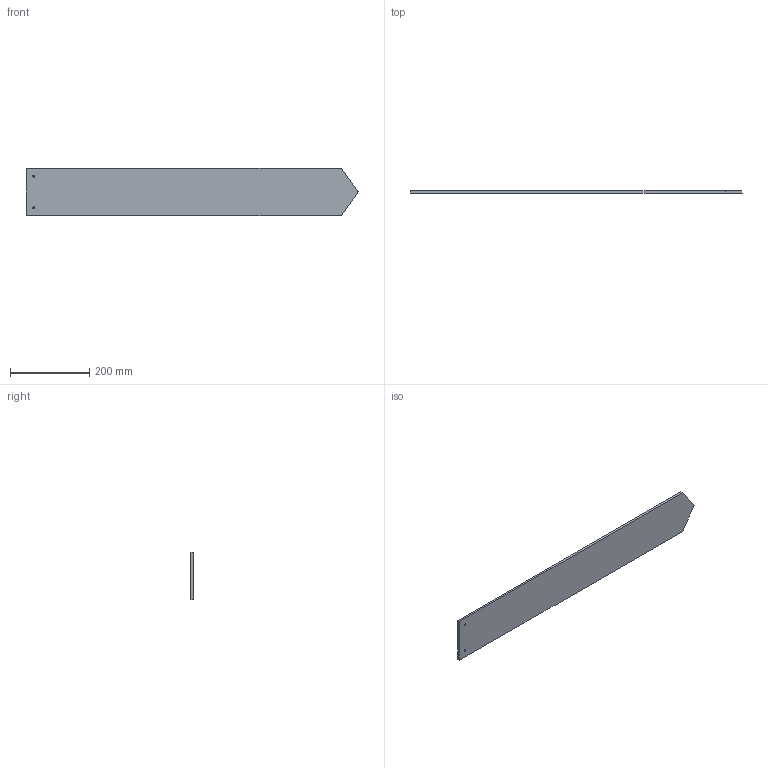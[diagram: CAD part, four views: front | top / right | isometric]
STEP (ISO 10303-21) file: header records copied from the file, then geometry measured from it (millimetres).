
FILE_DESCRIPTION(('HOOPS Exchange Step'),'2;1');
FILE_NAME('/private/var/mobile/Containers/Data/Application/E4481369-A8C6-45C6-A958-B1853E49479D/tmp/export/temp_export','2021-04-12T21:36:03+00:00',('mobile'),('Shapr3D Limited'),'HOOPS Exchange 2020.2','Shapr3D','Authorized');
FILE_SCHEMA( ('AP203_CONFIGURATION_CONTROLLED_3D_DESIGN_OF_MECHANICAL_PARTS_AND_ASSEMBLIES_MIM_LF') );
Length unit declared in the file: millimetre
Products named in the file (3): 0; /private/var/mobile/Containers/Data/Application/E4481369-A8C6-45C6-A958-B1853E49479D/tmp/248789D4-AAA9-448F-A1B0-9926F3DE4229.tmp
Assembly tree (2 placements, depth 3):
  /private/var/mobile/Containers/Data/Application/E4481369-A8C6-45C6-A958-B1853E49479D/tmp/248789D4-AAA9-448F-A1B0-9926F3DE4229.tmp
    0
      0
Bounding box: 836.79 x 6 x 120 mm (x, y, z)
Volume: 587266 mm3; surface area: 207083.1 mm2
Topology: 1 solids, 1 shells, 14 faces, 36 edges, 24 vertices
Faces by surface type: plane 7, cylinder 7
Full cylindrical faces by diameter (mm): 5.2 x2
Entity records: 512 total; most frequent: DIRECTION 88, CARTESIAN_POINT 79, ORIENTED_EDGE 72, EDGE_CURVE 36, AXIS2_PLACEMENT_3D 33, VERTEX_POINT 24, VECTOR 22, LINE 22
